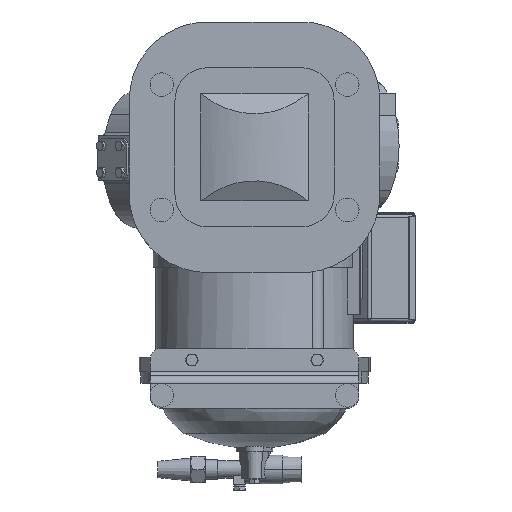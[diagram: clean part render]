
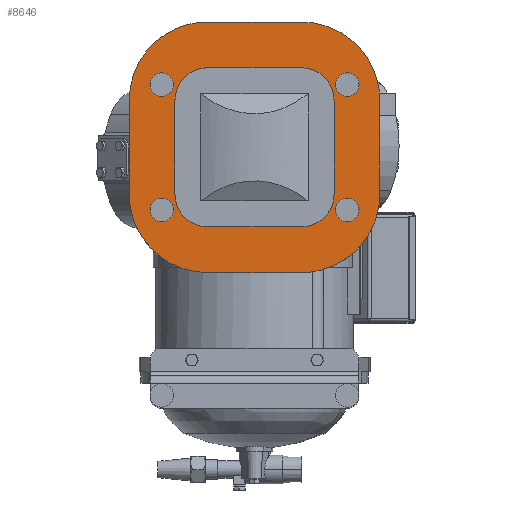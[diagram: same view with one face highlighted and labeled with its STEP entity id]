
A CAD part, front view. The second image highlights one B-rep face of the part: STEP entity #8646.
In plain terms, the highlighted planar face has unit normal (0, -1, 0).
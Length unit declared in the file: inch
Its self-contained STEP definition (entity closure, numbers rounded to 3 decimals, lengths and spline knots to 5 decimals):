
#7762=DIRECTION('',(0.,0.,1.));
#7763=VECTOR('',#7762,4.5);
#7764=CARTESIAN_POINT('',(-3.81,-6.272,-6.503));
#7765=LINE('',#7764,#7763);
#7783=CARTESIAN_POINT('',(-2.25,-6.272,-6.503));
#7784=DIRECTION('',(0.,1.,0.));
#7785=DIRECTION('',(0.,0.,-1.));
#7786=AXIS2_PLACEMENT_3D('',#7783,#7784,#7785);
#7798=DIRECTION('',(-1.,0.,0.));
#7799=VECTOR('',#7798,4.5);
#7800=CARTESIAN_POINT('',(2.25,-6.272,-8.063));
#7801=LINE('',#7800,#7799);
#7812=CARTESIAN_POINT('',(2.25,-6.272,-6.503));
#7813=DIRECTION('',(0.,1.,0.));
#7814=DIRECTION('',(1.,0.,0.));
#7815=AXIS2_PLACEMENT_3D('',#7812,#7813,#7814);
#7827=DIRECTION('',(0.,0.,-1.));
#7828=VECTOR('',#7827,4.5);
#7829=CARTESIAN_POINT('',(3.81,-6.272,-2.003));
#7830=LINE('',#7829,#7828);
#7841=CARTESIAN_POINT('',(2.25,-6.272,-2.003));
#7842=DIRECTION('',(0.,1.,0.));
#7843=DIRECTION('',(0.,0.,1.));
#7844=AXIS2_PLACEMENT_3D('',#7841,#7842,#7843);
#7856=DIRECTION('',(1.,0.,0.));
#7857=VECTOR('',#7856,4.5);
#7858=CARTESIAN_POINT('',(-2.25,-6.272,-0.443));
#7859=LINE('',#7858,#7857);
#7863=CARTESIAN_POINT('',(-2.25,-6.272,-2.003));
#7864=DIRECTION('',(0.,1.,0.));
#7865=DIRECTION('',(-1.,0.,0.));
#7866=AXIS2_PLACEMENT_3D('',#7863,#7864,#7865);
#7871=CARTESIAN_POINT('',(-6.,-6.272,-2.003));
#7872=CARTESIAN_POINT('',(-5.99987,-6.272,-1.8233));
#7873=CARTESIAN_POINT('',(-5.97453,-6.272,-1.46806));
#7874=CARTESIAN_POINT('',(-5.86033,-6.272,-0.94276));
#7875=CARTESIAN_POINT('',(-5.67274,-6.272,-0.43993));
#7876=CARTESIAN_POINT('',(-5.41544,-6.272,0.03132));
#7877=CARTESIAN_POINT('',(-5.09371,-6.272,0.46109));
#7878=CARTESIAN_POINT('',(-4.71409,-6.272,0.84071));
#7879=CARTESIAN_POINT('',(-4.28432,-6.272,1.16244));
#7880=CARTESIAN_POINT('',(-3.81307,-6.272,1.41974));
#7881=CARTESIAN_POINT('',(-3.31024,-6.272,1.60733));
#7882=CARTESIAN_POINT('',(-2.78494,-6.272,1.72153));
#7883=CARTESIAN_POINT('',(-2.4297,-6.272,1.74687));
#7884=CARTESIAN_POINT('',(-2.25,-6.272,1.747));
#7889=DIRECTION('',(1.,0.,0.));
#7890=VECTOR('',#7889,4.5);
#7891=CARTESIAN_POINT('',(-2.25,-6.272,1.747));
#7892=LINE('',#7891,#7890);
#7896=CARTESIAN_POINT('',(2.25,-6.272,1.747));
#7897=CARTESIAN_POINT('',(2.4297,-6.272,1.74687));
#7898=CARTESIAN_POINT('',(2.78494,-6.272,1.72153));
#7899=CARTESIAN_POINT('',(3.31024,-6.272,1.60733));
#7900=CARTESIAN_POINT('',(3.81307,-6.272,1.41974));
#7901=CARTESIAN_POINT('',(4.28432,-6.272,1.16244));
#7902=CARTESIAN_POINT('',(4.71409,-6.272,0.84071));
#7903=CARTESIAN_POINT('',(5.09371,-6.272,0.46109));
#7904=CARTESIAN_POINT('',(5.41544,-6.272,0.03132));
#7905=CARTESIAN_POINT('',(5.67274,-6.272,-0.43993));
#7906=CARTESIAN_POINT('',(5.86033,-6.272,-0.94276));
#7907=CARTESIAN_POINT('',(5.97453,-6.272,-1.46806));
#7908=CARTESIAN_POINT('',(5.99987,-6.272,-1.8233));
#7909=CARTESIAN_POINT('',(6.,-6.272,-2.003));
#7914=DIRECTION('',(0.,0.,-1.));
#7915=VECTOR('',#7914,4.5);
#7916=CARTESIAN_POINT('',(6.,-6.272,-2.003));
#7917=LINE('',#7916,#7915);
#7921=CARTESIAN_POINT('',(6.,-6.272,-6.503));
#7922=CARTESIAN_POINT('',(5.99987,-6.272,-6.6827));
#7923=CARTESIAN_POINT('',(5.97453,-6.272,-7.03794));
#7924=CARTESIAN_POINT('',(5.86033,-6.272,-7.56324));
#7925=CARTESIAN_POINT('',(5.67274,-6.272,-8.06607));
#7926=CARTESIAN_POINT('',(5.41544,-6.272,-8.53732));
#7927=CARTESIAN_POINT('',(5.09371,-6.272,-8.96709));
#7928=CARTESIAN_POINT('',(4.71409,-6.272,-9.34671));
#7929=CARTESIAN_POINT('',(4.28432,-6.272,-9.66844));
#7930=CARTESIAN_POINT('',(3.81307,-6.272,-9.92574));
#7931=CARTESIAN_POINT('',(3.31024,-6.272,-10.11333));
#7932=CARTESIAN_POINT('',(2.78494,-6.272,-10.22753));
#7933=CARTESIAN_POINT('',(2.4297,-6.272,-10.25287));
#7934=CARTESIAN_POINT('',(2.25,-6.272,-10.253));
#7939=DIRECTION('',(-1.,0.,0.));
#7940=VECTOR('',#7939,4.5);
#7941=CARTESIAN_POINT('',(2.25,-6.272,-10.253));
#7942=LINE('',#7941,#7940);
#7946=CARTESIAN_POINT('',(-2.25,-6.272,-10.253));
#7947=CARTESIAN_POINT('',(-2.4297,-6.272,-10.25287));
#7948=CARTESIAN_POINT('',(-2.78494,-6.272,-10.22753));
#7949=CARTESIAN_POINT('',(-3.31024,-6.272,-10.11333));
#7950=CARTESIAN_POINT('',(-3.81307,-6.272,-9.92574));
#7951=CARTESIAN_POINT('',(-4.28432,-6.272,-9.66844));
#7952=CARTESIAN_POINT('',(-4.71409,-6.272,-9.34671));
#7953=CARTESIAN_POINT('',(-5.09371,-6.272,-8.96709));
#7954=CARTESIAN_POINT('',(-5.41544,-6.272,-8.53732));
#7955=CARTESIAN_POINT('',(-5.67274,-6.272,-8.06607));
#7956=CARTESIAN_POINT('',(-5.86033,-6.272,-7.56324));
#7957=CARTESIAN_POINT('',(-5.97453,-6.272,-7.03794));
#7958=CARTESIAN_POINT('',(-5.99987,-6.272,-6.6827));
#7959=CARTESIAN_POINT('',(-6.,-6.272,-6.503));
#7964=DIRECTION('',(0.,0.,1.));
#7965=VECTOR('',#7964,4.5);
#7966=CARTESIAN_POINT('',(-6.,-6.272,-6.503));
#7967=LINE('',#7966,#7965);
#8331=VERTEX_POINT('',#7871);
#8332=VERTEX_POINT('',#7884);
#8333=CARTESIAN_POINT('',(2.25,-6.272,1.747));
#8334=VERTEX_POINT('',#8333);
#8335=VERTEX_POINT('',#7909);
#8336=CARTESIAN_POINT('',(6.,-6.272,-6.503));
#8337=VERTEX_POINT('',#8336);
#8338=VERTEX_POINT('',#7934);
#8339=CARTESIAN_POINT('',(-2.25,-6.272,-10.253));
#8340=VERTEX_POINT('',#8339);
#8341=VERTEX_POINT('',#7959);
#8361=CARTESIAN_POINT('',(-3.81,-6.272,-2.003));
#8362=CARTESIAN_POINT('',(-2.25,-6.272,-0.443));
#8363=VERTEX_POINT('',#8361);
#8364=VERTEX_POINT('',#8362);
#8365=CARTESIAN_POINT('',(2.25,-6.272,-0.443));
#8366=VERTEX_POINT('',#8365);
#8367=CARTESIAN_POINT('',(3.81,-6.272,-2.003));
#8368=VERTEX_POINT('',#8367);
#8369=CARTESIAN_POINT('',(3.81,-6.272,-6.503));
#8370=VERTEX_POINT('',#8369);
#8371=CARTESIAN_POINT('',(2.25,-6.272,-8.063));
#8372=VERTEX_POINT('',#8371);
#8373=CARTESIAN_POINT('',(-2.25,-6.272,-8.063));
#8374=VERTEX_POINT('',#8373);
#8375=CARTESIAN_POINT('',(-3.81,-6.272,-6.503));
#8376=VERTEX_POINT('',#8375);
#8613=CARTESIAN_POINT('',(-2.25,-6.272,-2.003));
#8614=DIRECTION('',(0.,1.,0.));
#8615=DIRECTION('',(1.,0.,0.));
#8616=AXIS2_PLACEMENT_3D('',#8613,#8614,#8615);
#8617=PLANE('',#8616);
#8619=ORIENTED_EDGE('',*,*,#8618,.T.);
#8621=ORIENTED_EDGE('',*,*,#8620,.T.);
#8623=ORIENTED_EDGE('',*,*,#8622,.T.);
#8625=ORIENTED_EDGE('',*,*,#8624,.T.);
#8627=ORIENTED_EDGE('',*,*,#8626,.T.);
#8629=ORIENTED_EDGE('',*,*,#8628,.T.);
#8631=ORIENTED_EDGE('',*,*,#8630,.T.);
#8633=ORIENTED_EDGE('',*,*,#8632,.T.);
#8634=EDGE_LOOP('',(#8619,#8621,#8623,#8625,#8627,#8629,#8631,#8633));
#8635=FACE_OUTER_BOUND('',#8634,.F.);
#8636=ORIENTED_EDGE('',*,*,#8509,.F.);
#8637=ORIENTED_EDGE('',*,*,#8524,.F.);
#8638=ORIENTED_EDGE('',*,*,#8538,.F.);
#8639=ORIENTED_EDGE('',*,*,#8552,.F.);
#8640=ORIENTED_EDGE('',*,*,#8566,.F.);
#8641=ORIENTED_EDGE('',*,*,#8580,.F.);
#8642=ORIENTED_EDGE('',*,*,#8594,.F.);
#8643=ORIENTED_EDGE('',*,*,#8607,.F.);
#8644=EDGE_LOOP('',(#8636,#8637,#8638,#8639,#8640,#8641,#8642,#8643));
#8645=FACE_BOUND('',#8644,.F.);
#8646=ADVANCED_FACE('',(#8635,#8645),#8617,.F.);
#7787=CIRCLE('',#7786,1.56);
#7816=CIRCLE('',#7815,1.56);
#7845=CIRCLE('',#7844,1.56);
#7867=CIRCLE('',#7866,1.56);
#7885=B_SPLINE_CURVE_WITH_KNOTS('',3,(#7871,#7872,#7873,#7874,#7875,#7876,#7877,
#7878,#7879,#7880,#7881,#7882,#7883,#7884),.UNSPECIFIED.,.F.,.F.,(4,1,1,1,1,1,1,
1,1,1,1,4),(0.,0.09091,0.18182,0.27273,
0.36364,0.45455,0.54545,0.63636,
0.72727,0.81818,0.90909,1.),.UNSPECIFIED.);
#7910=B_SPLINE_CURVE_WITH_KNOTS('',3,(#7896,#7897,#7898,#7899,#7900,#7901,#7902,
#7903,#7904,#7905,#7906,#7907,#7908,#7909),.UNSPECIFIED.,.F.,.F.,(4,1,1,1,1,1,1,
1,1,1,1,4),(0.,0.09091,0.18182,0.27273,
0.36364,0.45455,0.54545,0.63636,
0.72727,0.81818,0.90909,1.),.UNSPECIFIED.);
#7935=B_SPLINE_CURVE_WITH_KNOTS('',3,(#7921,#7922,#7923,#7924,#7925,#7926,#7927,
#7928,#7929,#7930,#7931,#7932,#7933,#7934),.UNSPECIFIED.,.F.,.F.,(4,1,1,1,1,1,1,
1,1,1,1,4),(0.,0.09091,0.18182,0.27273,
0.36364,0.45455,0.54545,0.63636,
0.72727,0.81818,0.90909,1.),.UNSPECIFIED.);
#7960=B_SPLINE_CURVE_WITH_KNOTS('',3,(#7946,#7947,#7948,#7949,#7950,#7951,#7952,
#7953,#7954,#7955,#7956,#7957,#7958,#7959),.UNSPECIFIED.,.F.,.F.,(4,1,1,1,1,1,1,
1,1,1,1,4),(0.,0.09091,0.18182,0.27273,
0.36364,0.45455,0.54545,0.63636,
0.72727,0.81818,0.90909,1.),.UNSPECIFIED.);
#8509=EDGE_CURVE('',#8376,#8363,#7765,.T.);
#8524=EDGE_CURVE('',#8374,#8376,#7787,.T.);
#8538=EDGE_CURVE('',#8372,#8374,#7801,.T.);
#8552=EDGE_CURVE('',#8370,#8372,#7816,.T.);
#8566=EDGE_CURVE('',#8368,#8370,#7830,.T.);
#8580=EDGE_CURVE('',#8366,#8368,#7845,.T.);
#8594=EDGE_CURVE('',#8364,#8366,#7859,.T.);
#8607=EDGE_CURVE('',#8363,#8364,#7867,.T.);
#8618=EDGE_CURVE('',#8331,#8332,#7885,.T.);
#8620=EDGE_CURVE('',#8332,#8334,#7892,.T.);
#8622=EDGE_CURVE('',#8334,#8335,#7910,.T.);
#8624=EDGE_CURVE('',#8335,#8337,#7917,.T.);
#8626=EDGE_CURVE('',#8337,#8338,#7935,.T.);
#8628=EDGE_CURVE('',#8338,#8340,#7942,.T.);
#8630=EDGE_CURVE('',#8340,#8341,#7960,.T.);
#8632=EDGE_CURVE('',#8341,#8331,#7967,.T.);
